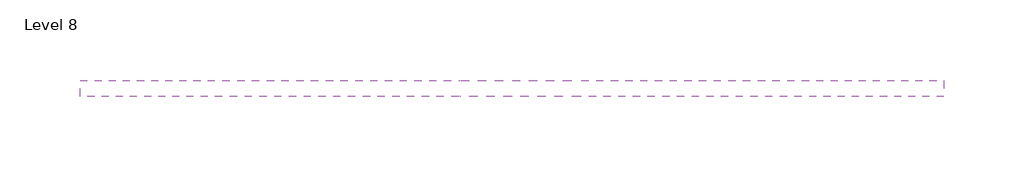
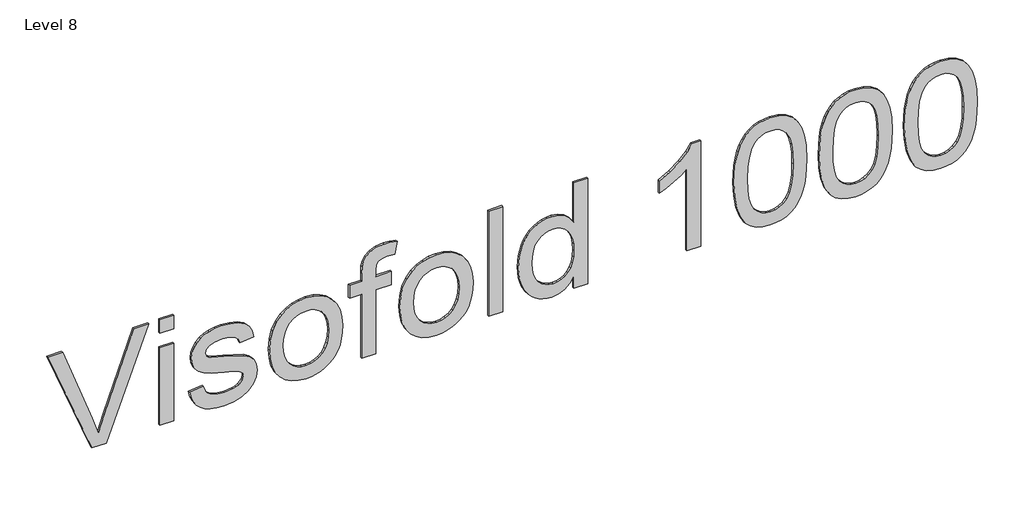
# One storey: 1 proxy.
"""IFC4 building model written with IfcOpenShell, lengths in millimetres."""

from ifc_helpers import new_model, si_unit, frame, origin, place, context, project, spatial, polyline, outline, extrude, element, save

model = new_model("IFC4")

# Units and contexts
model_context = context("Model", 3, world=origin())
ifc_project = project(units=[si_unit("LENGTHUNIT", "METRE", prefix="MILLI")], contexts=[model_context])

# Site, building, storey
site = spatial("IfcSite", under=ifc_project)
building = spatial("IfcBuilding", under=site)
storey = spatial("IfcBuildingStorey", under=building, Name="Level 8", Elevation=21000.0)

# Proxy
placement = place(None, origin())
element("IfcBuildingElementProxy", 1, Name="600mm Arial", ObjectType="600mm Arial", at=placement, inside=storey, context=model_context, shape_type="SweptSolid", body=[
    extrude(outline(polyline([(22651.9509093, -198832.3665538), (22651.9509093, -198756.0684769), (23242.7201401, -198530.9242461), (23242.7201401, -198609.9627077), (22817.0951401, -198767.7511692), (22721.1816786, -198799.1934769), (22817.0951401, -198831.0684769), (23242.7201401, -198988.4242461), (23242.7201401, -199067.4627077), (22651.9509093, -198832.3665538)])), frame((0.0, 24202.6264647, 0.0), z_axis=(0.0, 1.0, 0.0), x_axis=(0.0, 0.0, 1.0)), (0.0, 0.0, 1.0), 10.0),
    extrude(outline(polyline([(-198397.6550153, 24202.6264647), (-198471.5011692, 24202.6264647), (-198471.5011692, 24212.6264647), (-198397.6550153, 24212.6264647), (-198397.6550153, 24202.6264647)])), frame((0.0, 0.0, 23168.8739863), z_axis=(0.0, 0.0, 1.0), x_axis=(1.0, 0.0, 0.0)), (0.0, 0.0, 1.0), 73.8461538),
    extrude(outline(polyline([(-198397.6550153, 24202.6264647), (-198471.5011692, 24202.6264647), (-198471.5011692, 24212.6264647), (-198397.6550153, 24212.6264647), (-198397.6550153, 24202.6264647)])), frame((0.0, 0.0, 22651.9509093), z_axis=(0.0, 0.0, 1.0), x_axis=(1.0, 0.0, 0.0)), (0.0, 0.0, 1.0), 433.8461538),
    extrude(outline(polyline([(22781.1816786, -198314.5780923), (22748.9641305, -198306.4470827), (22720.9653324, -198294.3136692), (22697.1852843, -198278.1778519), (22677.6239863, -198258.0396307), (22662.3535536, -198233.3851836), (22651.4461017, -198203.7006884), (22644.9016305, -198168.9861452), (22642.7201401, -198129.2415538), (22647.2453805, -198080.8521307), (22660.8211017, -198037.7992461), (22682.690092, -198002.1562173), (22712.0951401, -197975.9963615), (22746.3499478, -197959.9326596), (22782.768217, -197954.5780923), (22817.9965824, -197959.1393903), (22846.9509093, -197972.8232846), (22869.7033132, -197994.5300153), (22886.3259093, -198023.159823), (22921.0855247, -198131.5492461), (22936.8066786, -198195.1550153), (22944.0542747, -198211.4170346), (22953.1047555, -198222.7030923), (22963.236967, -198229.30165), (22974.5951401, -198231.5011692), (22992.0470632, -198226.2006884), (23007.191294, -198210.2992461), (23017.6840824, -198182.0300153), (23021.1816786, -198139.6261692), (23017.5218228, -198102.3966019), (23006.5422555, -198074.6502077), (22989.0362459, -198056.206698), (22965.7970632, -198046.8857846), (22975.0278324, -197973.0396307), (23012.3655728, -197982.847323), (23041.3018709, -197998.4242461), (23063.4773517, -198021.9338615), (23080.5326401, -198055.5396307), (23091.4040343, -198097.3304961), (23095.0278324, -198145.3954), (23092.7742267, -198178.2259288), (23086.0134093, -198208.9290538), (23076.0434574, -198235.4855442), (23064.1624478, -198255.8761692), (23045.2862459, -198276.3929961), (23022.1191786, -198292.0780923), (22995.706919, -198302.0300153), (22967.0951401, -198305.347323), (22935.9052363, -198301.2187173), (22907.5278324, -198288.8329), (22883.4953805, -198268.442275), (22865.3403324, -198240.2992461), (22848.6997074, -198196.48915), (22829.2105247, -198129.097323), (22817.5278324, -198080.7439577), (22808.1528324, -198053.0877077), (22793.8018709, -198034.5901115), (22784.9497074, -198029.9657125), (22774.9797555, -198028.4242461), (22752.9845632, -198034.5540538), (22734.018217, -198052.9434769), (22726.3830007, -198066.8437173), (22720.9292747, -198084.0252077), (22716.566294, -198128.2319384), (22721.3259093, -198172.9795346), (22727.2754286, -198191.1616259), (22735.6047555, -198206.5492461), (22746.1696593, -198219.1784528), (22758.8259093, -198229.0853038), (22773.5735055, -198236.269799), (22790.4124478, -198240.7319384), (22781.1816786, -198314.5780923)])), frame((0.0, 24202.6264647, 0.0), z_axis=(0.0, 1.0, 0.0), x_axis=(0.0, 0.0, 1.0)), (0.0, 0.0, 1.0), 10.0),
    extrude(outline(polyline([(22868.8739863, -197889.9627077), (22817.2754286, -197886.6138495), (22772.0951401, -197876.567275), (22733.3331209, -197859.8229841), (22700.9893709, -197836.3809769), (22675.4965824, -197807.512287), (22657.2874478, -197774.487948), (22646.361967, -197737.3079601), (22642.7201401, -197695.972323), (22644.3742868, -197669.3842822), (22649.3367267, -197643.8509288), (22657.6074598, -197619.3722629), (22669.1864863, -197595.9482846), (22683.7583012, -197574.4173351), (22701.0073997, -197555.6177557), (22720.9337819, -197539.5495466), (22743.5374478, -197526.2127077), (22769.706318, -197515.737948), (22800.3283132, -197508.2559769), (22835.4034334, -197503.7667942), (22874.9316786, -197502.2704), (22923.7042146, -197505.6553158), (22966.8968228, -197515.8100634), (23004.5095031, -197532.7346428), (23036.5422555, -197556.4290538), (23062.1296954, -197585.4600033), (23080.4064382, -197618.394198), (23091.3724839, -197655.2316379), (23095.0278324, -197695.972323), (23092.0260295, -197732.8773711), (23083.0206209, -197766.8617461), (23068.0116065, -197797.925448), (23046.9989863, -197826.0684769), (23014.1233853, -197854.0222028), (22973.4773517, -197873.98915), (22925.0608853, -197885.9693182), (22868.8739863, -197889.9627077)]), holes=[polyline([(22869.018217, -197816.1165538), (22904.8280127, -197813.9801355), (22935.815092, -197807.5708807), (22961.979455, -197796.8887894), (22983.3211017, -197781.9338615), (22999.8851041, -197763.7427557), (23011.7165343, -197743.3521307), (23018.8153925, -197720.7619865), (23021.1816786, -197695.972323), (23018.8063781, -197671.4846428), (23011.6804767, -197649.0792942), (22999.8039743, -197628.7562774), (22983.1768709, -197610.5155923), (22961.9343829, -197595.4660129), (22936.2117267, -197584.7163134), (22906.0089021, -197578.2664937), (22871.3259093, -197576.1165538), (22834.6732651, -197578.2529721), (22803.0326401, -197584.6622269), (22776.4040343, -197595.3443182), (22754.7874478, -197610.2992461), (22738.065693, -197628.472323), (22726.1215824, -197648.8088615), (22718.9551161, -197671.3088615), (22716.566294, -197695.972323), (22718.9415944, -197720.7619865), (22726.0674959, -197743.3521307), (22737.9439983, -197763.7427557), (22754.5711017, -197781.9338615), (22775.9758493, -197796.8887894), (22802.1852843, -197807.5708807), (22833.1994069, -197813.9801355), (22869.018217, -197816.1165538)])]), frame((0.0, 24202.6264647, 0.0), z_axis=(0.0, 1.0, 0.0), x_axis=(0.0, 0.0, 1.0)), (0.0, 0.0, 1.0), 10.0),
    extrude(outline(polyline([(22651.9509093, -197400.7319384), (22651.9509093, -197326.8857846), (23011.9509093, -197326.8857846), (23011.9509093, -197243.8088615), (23085.7970632, -197243.8088615), (23085.7970632, -197326.8857846), (23120.1239863, -197326.8857846), (23148.285044, -197323.4783327), (23165.8451401, -197313.2559769), (23175.0398517, -197294.8124673), (23178.1047555, -197266.7415538), (23174.643217, -197224.1934769), (23243.8739863, -197213.3761692), (23249.9316786, -197248.67665), (23251.9509093, -197280.7319384), (23247.7321593, -197323.0636692), (23235.0759093, -197355.1550153), (23215.6408132, -197378.0877077), (23191.0855247, -197392.9434769), (23165.6648517, -197398.784823), (23129.4989863, -197400.7319384), (23085.7970632, -197400.7319384), (23085.7970632, -197465.347323), (23011.9509093, -197465.347323), (23011.9509093, -197400.7319384), (22651.9509093, -197400.7319384)])), frame((0.0, 24202.6264647, 0.0), z_axis=(0.0, 1.0, 0.0), x_axis=(0.0, 0.0, 1.0)), (0.0, 0.0, 1.0), 10.0),
    extrude(outline(polyline([(22868.8739863, -197197.6550153), (22817.2754286, -197194.3061572), (22772.0951401, -197184.2595827), (22733.3331209, -197167.5152918), (22700.9893709, -197144.0732846), (22675.4965824, -197115.2045947), (22657.2874478, -197082.1802557), (22646.361967, -197045.0002678), (22642.7201401, -197003.6646307), (22644.3742868, -196977.0765899), (22649.3367267, -196951.5432365), (22657.6074598, -196927.0645706), (22669.1864863, -196903.6405923), (22683.7583012, -196882.1096428), (22701.0073997, -196863.3100634), (22720.9337819, -196847.2418543), (22743.5374478, -196833.9050153), (22769.706318, -196823.4302557), (22800.3283132, -196815.9482846), (22835.4034334, -196811.4591019), (22874.9316786, -196809.9627077), (22923.7042146, -196813.3476235), (22966.8968228, -196823.5023711), (23004.5095031, -196840.4269504), (23036.5422555, -196864.1213615), (23062.1296954, -196893.152311), (23080.4064382, -196926.0865057), (23091.3724839, -196962.9239456), (23095.0278324, -197003.6646307), (23092.0260295, -197040.5696788), (23083.0206209, -197074.5540538), (23068.0116065, -197105.6177557), (23046.9989863, -197133.7607846), (23014.1233853, -197161.7145105), (22973.4773517, -197181.6814577), (22925.0608853, -197193.6616259), (22868.8739863, -197197.6550153)]), holes=[polyline([(22869.018217, -197123.8088615), (22904.8280127, -197121.6724432), (22935.815092, -197115.2631884), (22961.979455, -197104.5810971), (22983.3211017, -197089.6261692), (22999.8851041, -197071.4350634), (23011.7165343, -197051.0444384), (23018.8153925, -197028.4542942), (23021.1816786, -197003.6646307), (23018.8063781, -196979.1769504), (23011.6804767, -196956.7716019), (22999.8039743, -196936.4485851), (22983.1768709, -196918.2079), (22961.9343829, -196903.1583206), (22936.2117267, -196892.4086211), (22906.0089021, -196885.9588014), (22871.3259093, -196883.8088615), (22834.6732651, -196885.9452798), (22803.0326401, -196892.3545346), (22776.4040343, -196903.0366259), (22754.7874478, -196917.9915538), (22738.065693, -196936.1646307), (22726.1215824, -196956.5011692), (22718.9551161, -196979.0011692), (22716.566294, -197003.6646307), (22718.9415944, -197028.4542942), (22726.0674959, -197051.0444384), (22737.9439983, -197071.4350634), (22754.5711017, -197089.6261692), (22775.9758493, -197104.5810971), (22802.1852843, -197115.2631884), (22833.1994069, -197121.6724432), (22869.018217, -197123.8088615)])]), frame((0.0, 24202.6264647, 0.0), z_axis=(0.0, 1.0, 0.0), x_axis=(0.0, 0.0, 1.0)), (0.0, 0.0, 1.0), 10.0),
    extrude(outline(polyline([(-196653.0396307, 24202.6264647), (-196726.8857846, 24202.6264647), (-196726.8857846, 24212.6264647), (-196653.0396307, 24212.6264647), (-196653.0396307, 24202.6264647)])), frame((0.0, 0.0, 22651.9509093), z_axis=(0.0, 0.0, 1.0), x_axis=(1.0, 0.0, 0.0)), (0.0, 0.0, 1.0), 590.7692308),
    extrude(outline(polyline([(22651.9509093, -196274.5780923), (22651.9509093, -196200.7319384), (23242.7201401, -196200.7319384), (23242.7201401, -196274.5780923), (23022.6239863, -196274.5780923), (23051.7766305, -196296.1045346), (23074.9076401, -196323.1838615), (23089.9977843, -196355.1309769), (23095.0278324, -196391.2607846), (23093.2700199, -196416.6769504), (23087.9965824, -196440.8581403), (23079.2075199, -196463.8043543), (23066.9028324, -196485.5155923), (23051.2988661, -196505.2932365), (23032.611967, -196522.4386692), (23010.8421353, -196536.9518903), (22985.9893709, -196548.8329), (22930.2081209, -196564.6802557), (22868.441294, -196569.9627077), (22805.8992267, -196564.2295346), (22777.4812579, -196557.0630682), (22750.9653324, -196547.0300153), (22726.8111858, -196534.3917942), (22705.4785536, -196519.409823), (22686.9674358, -196502.0841019), (22671.2778324, -196482.4146307), (22658.783842, -196461.0684769), (22649.8595632, -196438.7127077), (22644.5049959, -196415.347323), (22642.7201401, -196390.972323), (22647.6510295, -196354.8695586), (22662.4436978, -196323.4362653), (22687.0981449, -196296.6724432), (22721.6143709, -196274.5780923), (22651.9509093, -196274.5780923)]), holes=[polyline([(22868.7297555, -196496.1165538), (22905.6032531, -196494.1694384), (22937.1852843, -196488.3280923), (22963.4758493, -196478.5925153), (22984.4749478, -196464.9627077), (23000.5341425, -196448.4212413), (23012.0049959, -196429.9506884), (23018.8875079, -196409.551049), (23021.1816786, -196387.222323), (23018.7928565, -196364.3662533), (23011.6263901, -196343.394198), (22999.6822795, -196324.3061572), (22982.9605247, -196307.1021307), (22961.1366065, -196292.8728639), (22933.8860055, -196282.7091019), (22901.2087218, -196276.6108447), (22863.1047555, -196274.5780923), (22828.3496473, -196276.574787), (22798.363169, -196282.5648711), (22773.1453204, -196292.5483447), (22752.6961017, -196306.5252077), (22736.8893108, -196323.3596428), (22725.5987459, -196341.9158327), (22718.8244069, -196362.1937774), (22716.566294, -196384.1934769), (22718.93258, -196406.0895105), (22726.0314382, -196426.48915), (22737.8628685, -196445.3923952), (22754.4268709, -196462.7992461), (22775.7685175, -196477.3755682), (22801.9328805, -196487.7872269), (22832.9199598, -196494.0342221), (22868.7297555, -196496.1165538)])]), frame((0.0, 24202.6264647, 0.0), z_axis=(0.0, 1.0, 0.0), x_axis=(0.0, 0.0, 1.0)), (0.0, 0.0, 1.0), 10.0),
    extrude(outline(polyline([(22651.9509093, -195600.7319384), (23242.7201401, -195600.7319384), (23242.7201401, -195648.3280923), (23204.0302363, -195674.4158327), (23164.1143709, -195714.0252077), (23126.5783132, -195764.2716019), (23095.0278324, -195822.2704), (23025.2201401, -195822.2704), (23040.7429767, -195785.5997269), (23062.503794, -195744.5300153), (23087.4016305, -195705.4074192), (23112.3355247, -195674.5780923), (22651.9509093, -195674.5780923), (22651.9509093, -195600.7319384)])), frame((0.0, 24202.6264647, 0.0), z_axis=(0.0, 1.0, 0.0), x_axis=(0.0, 0.0, 1.0)), (0.0, 0.0, 1.0), 10.0),
    extrude(outline(polyline([(22942.5759093, -195425.347323), (22865.2592026, -195421.6694384), (22798.8860055, -195410.6357846), (22743.456318, -195392.2463615), (22698.9701401, -195366.5011692), (22674.3607651, -195339.6742461), (22656.7826401, -195308.2319384), (22646.2357651, -195272.1742461), (22642.7201401, -195231.5011692), (22644.7438781, -195200.2436572), (22650.815092, -195171.8076596), (22660.9337819, -195146.1931764), (22675.0999478, -195123.4002077), (22693.3811978, -195103.3476235), (22715.8451401, -195085.9542942), (22742.4917747, -195071.2202197), (22773.3211017, -195059.1454), (22808.5900319, -195049.7433567), (22848.5554767, -195043.0276115), (22942.5759093, -195037.6550153), (23020.9112459, -195041.0083807), (23081.3980247, -195051.0684769), (23129.0302363, -195066.4290538), (23168.8018709, -195085.6838615), (23200.4424959, -195111.17665), (23223.6816786, -195145.2511692), (23237.9605247, -195185.9963615), (23242.7201401, -195231.5011692), (23240.7099238, -195262.5693783), (23234.6792747, -195290.8701596), (23224.628193, -195316.4035129), (23210.5566786, -195339.1694384), (23192.37008, -195359.2355442), (23169.9737459, -195376.6694384), (23143.3676762, -195391.4711211), (23112.5518709, -195403.6405923), (23077.2378685, -195413.137287), (23037.1372074, -195419.9206403), (22942.5759093, -195425.347323)]), holes=[polyline([(22942.7201401, -195351.5011692), (23005.3884093, -195349.2655923), (23057.3836017, -195342.5588615), (23098.705717, -195331.3809769), (23129.3547555, -195315.7319384), (23146.644419, -195298.2980442), (23158.9941786, -195278.5925153), (23166.4040343, -195256.6153519), (23168.8739863, -195232.3665538), (23166.0705007, -195206.675448), (23157.660044, -195183.5444384), (23143.6426161, -195162.973525), (23124.018217, -195144.9627077), (23095.8661738, -195130.3232846), (23056.2658132, -195119.8665538), (23005.2171353, -195113.5925153), (22942.7201401, -195111.5011692), (22878.6411137, -195113.6646307), (22826.7405728, -195120.1550153), (22787.0185175, -195130.972323), (22759.4749478, -195146.1165538), (22740.7024118, -195164.4338615), (22727.2934574, -195184.7704), (22719.2480848, -195207.1261692), (22716.566294, -195231.5011692), (22719.2390704, -195255.8761692), (22727.2573997, -195278.2319384), (22740.6212819, -195298.5684769), (22759.330717, -195316.8857846), (22786.8292146, -195332.0300153), (22826.5602843, -195342.847323), (22878.5239262, -195349.3377077), (22942.7201401, -195351.5011692)])]), frame((0.0, 24202.6264647, 0.0), z_axis=(0.0, 1.0, 0.0), x_axis=(0.0, 0.0, 1.0)), (0.0, 0.0, 1.0), 10.0),
    extrude(outline(polyline([(22942.5759093, -194973.0396307), (22865.2592026, -194969.3617461), (22798.8860055, -194958.3280923), (22743.456318, -194939.9386692), (22698.9701401, -194914.1934769), (22674.3607651, -194887.3665538), (22656.7826401, -194855.9242461), (22646.2357651, -194819.8665538), (22642.7201401, -194779.1934769), (22644.7438781, -194747.9359649), (22650.815092, -194719.4999673), (22660.9337819, -194693.8854841), (22675.0999478, -194671.0925153), (22693.3811978, -194651.0399312), (22715.8451401, -194633.6466019), (22742.4917747, -194618.9125274), (22773.3211017, -194606.8377077), (22808.5900319, -194597.4356644), (22848.5554767, -194590.7199192), (22942.5759093, -194585.347323), (23020.9112459, -194588.7006884), (23081.3980247, -194598.7607846), (23129.0302363, -194614.1213615), (23168.8018709, -194633.3761692), (23200.4424959, -194658.8689577), (23223.6816786, -194692.9434769), (23237.9605247, -194733.6886692), (23242.7201401, -194779.1934769), (23240.7099238, -194810.261686), (23234.6792747, -194838.5624673), (23224.628193, -194864.0958206), (23210.5566786, -194886.8617461), (23192.37008, -194906.9278519), (23169.9737459, -194924.3617461), (23143.3676762, -194939.1634288), (23112.5518709, -194951.3329), (23077.2378685, -194960.8295947), (23037.1372074, -194967.612948), (22942.5759093, -194973.0396307)]), holes=[polyline([(22942.7201401, -194899.1934769), (23005.3884093, -194896.9579), (23057.3836017, -194890.2511692), (23098.705717, -194879.0732846), (23129.3547555, -194863.4242461), (23146.644419, -194845.9903519), (23158.9941786, -194826.284823), (23166.4040343, -194804.3076596), (23168.8739863, -194780.0588615), (23166.0705007, -194754.3677557), (23157.660044, -194731.2367461), (23143.6426161, -194710.6658327), (23124.018217, -194692.6550153), (23095.8661738, -194678.0155923), (23056.2658132, -194667.5588615), (23005.2171353, -194661.284823), (22942.7201401, -194659.1934769), (22878.6411137, -194661.3569384), (22826.7405728, -194667.847323), (22787.0185175, -194678.6646307), (22759.4749478, -194693.8088615), (22740.7024118, -194712.1261692), (22727.2934574, -194732.4627077), (22719.2480848, -194754.8184769), (22716.566294, -194779.1934769), (22719.2390704, -194803.5684769), (22727.2573997, -194825.9242461), (22740.6212819, -194846.2607846), (22759.330717, -194864.5780923), (22786.8292146, -194879.722323), (22826.5602843, -194890.5396307), (22878.5239262, -194897.0300153), (22942.7201401, -194899.1934769)])]), frame((0.0, 24202.6264647, 0.0), z_axis=(0.0, 1.0, 0.0), x_axis=(0.0, 0.0, 1.0)), (0.0, 0.0, 1.0), 10.0),
    extrude(outline(polyline([(22942.5759093, -194520.7319384), (22865.2592026, -194517.0540538), (22798.8860055, -194506.0204), (22743.456318, -194487.6309769), (22698.9701401, -194461.8857846), (22674.3607651, -194435.0588615), (22656.7826401, -194403.6165538), (22646.2357651, -194367.5588615), (22642.7201401, -194326.8857846), (22644.7438781, -194295.6282726), (22650.815092, -194267.192275), (22660.9337819, -194241.5777918), (22675.0999478, -194218.784823), (22693.3811978, -194198.7322389), (22715.8451401, -194181.3389096), (22742.4917747, -194166.6048351), (22773.3211017, -194154.5300153), (22808.5900319, -194145.1279721), (22848.5554767, -194138.4122269), (22942.5759093, -194133.0396307), (23020.9112459, -194136.3929961), (23081.3980247, -194146.4530923), (23129.0302363, -194161.8136692), (23168.8018709, -194181.0684769), (23200.4424959, -194206.5612653), (23223.6816786, -194240.6357846), (23237.9605247, -194281.3809769), (23242.7201401, -194326.8857846), (23240.7099238, -194357.9539937), (23234.6792747, -194386.254775), (23224.628193, -194411.7881283), (23210.5566786, -194434.5540538), (23192.37008, -194454.6201596), (23169.9737459, -194472.0540538), (23143.3676762, -194486.8557365), (23112.5518709, -194499.0252077), (23077.2378685, -194508.5219024), (23037.1372074, -194515.3052557), (22942.5759093, -194520.7319384)]), holes=[polyline([(22942.7201401, -194446.8857846), (23005.3884093, -194444.6502077), (23057.3836017, -194437.9434769), (23098.705717, -194426.7655923), (23129.3547555, -194411.1165538), (23146.644419, -194393.6826596), (23158.9941786, -194373.9771307), (23166.4040343, -194351.9999673), (23168.8739863, -194327.7511692), (23166.0705007, -194302.0600634), (23157.660044, -194278.9290538), (23143.6426161, -194258.3581403), (23124.018217, -194240.347323), (23095.8661738, -194225.7079), (23056.2658132, -194215.2511692), (23005.2171353, -194208.9771307), (22942.7201401, -194206.8857846), (22878.6411137, -194209.0492461), (22826.7405728, -194215.5396307), (22787.0185175, -194226.3569384), (22759.4749478, -194241.5011692), (22740.7024118, -194259.8184769), (22727.2934574, -194280.1550153), (22719.2480848, -194302.5107846), (22716.566294, -194326.8857846), (22719.2390704, -194351.2607846), (22727.2573997, -194373.6165538), (22740.6212819, -194393.9530923), (22759.330717, -194412.2704), (22786.8292146, -194427.4146307), (22826.5602843, -194438.2319384), (22878.5239262, -194444.722323), (22942.7201401, -194446.8857846)])]), frame((0.0, 24202.6264647, 0.0), z_axis=(0.0, 1.0, 0.0), x_axis=(0.0, 0.0, 1.0)), (0.0, 0.0, 1.0), 10.0),
])

save(model, "model.ifc")
